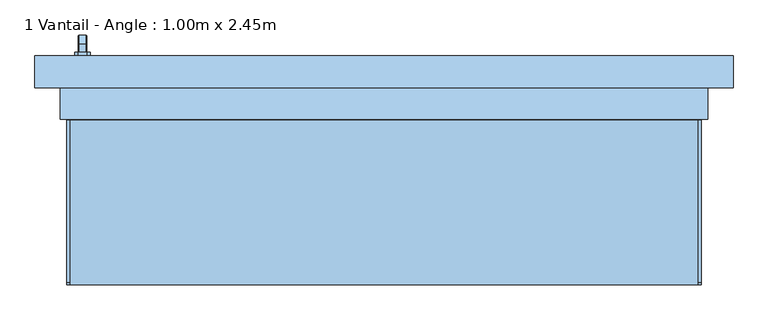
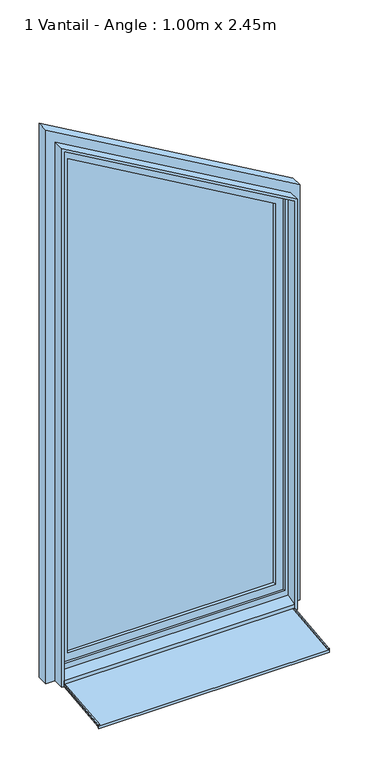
"""IFC4 building model written with IfcOpenShell, lengths in millimetres: window geometry, 1 Vantail - Angle : 1.00m x 2.45m."""

from ifc_helpers import new_model, si_unit, point, frame, frame_2d, origin, place, context, project, spatial, polyline, circle_curve, trimmed, segment, composite_curve, outline, extrude, faceted_brep, source, transform, mapped, element, save


def window_1_vantail_angle_1_00m_x_2_45m_d07fa77f(model_context):
    return source(origin(), model_context, "Body", "SolidModel", [
        faceted_brep([(-469.3539903, 181.0, 1122.0339292), (-480.6460097, 181.0, 1122.0339292), (-482.0339292, 181.0, 1120.6460097), (-482.0339292, 181.0, 1109.3323012), (-480.6676988, 181.0, 1107.9660708), (-469.3323012, 181.0, 1107.9660708), (-467.9660708, 181.0, 1109.3323012), (-467.9660708, 181.0, 1120.6460097), (-467.9660708, 193.3386538, 1120.6460097), (-469.3539903, 193.9135489, 1122.0339292), (-467.9660708, 188.6523623, 1109.3323012), (-467.9660708, 195.3323012, 1102.6523623), (-467.9660708, 195.3323012, 1020.0), (-467.9660708, 206.6460097, 1020.0), (-467.9660708, 206.6460097, 1107.3386538), (-469.3323012, 188.0864511, 1107.9660708), (-480.6676988, 188.0864511, 1107.9660708), (-482.0339292, 188.6523623, 1109.3323012), (-482.0339292, 193.3386538, 1120.6460097), (-482.0339292, 206.6460097, 1107.3386538), (-482.0339292, 206.6460097, 1020.0), (-482.0339292, 195.3323012, 1020.0), (-482.0339292, 195.3323012, 1102.6523623), (-480.6460097, 193.9135489, 1122.0339292), (-469.3539903, 208.0339292, 1107.9135489), (-469.3323012, 193.9660708, 1102.0864511), (-480.6676988, 193.9660708, 1102.0864511), (-480.6460097, 208.0339292, 1107.9135489), (-469.3539903, 208.0339292, 1020.0), (-469.3323012, 193.9660708, 1020.0), (-480.6676988, 193.9660708, 1020.0), (-480.6460097, 208.0339292, 1020.0)], [[[0, 1, 2, 3, 4, 5, 6, 7]], [[7, 8, 9, 0]], [[6, 10, 11, 12, 13, 14, 8, 7]], [[5, 15, 10, 6]], [[4, 16, 15, 5]], [[3, 17, 16, 4]], [[2, 18, 19, 20, 21, 22, 17, 3]], [[1, 23, 18, 2]], [[0, 9, 23, 1]], [[8, 14, 24, 9]], [[15, 25, 11, 10]], [[16, 26, 25, 15]], [[17, 22, 26, 16]], [[23, 27, 19, 18]], [[9, 24, 27, 23]], [[28, 13, 12, 29, 30, 21, 20, 31]], [[14, 13, 28, 24]], [[25, 29, 12, 11]], [[26, 30, 29, 25]], [[22, 21, 30, 26]], [[27, 31, 20, 19]], [[24, 28, 31, 27]]]),
        extrude(outline(polyline([(1140.0, -468.0), (1140.0, -482.0), (1135.0, -487.0), (1065.0, -487.0), (1060.0, -482.0), (1060.0, -468.0), (1065.0, -463.0), (1135.0, -463.0), (1140.0, -468.0)])), frame((0.0, 175.0, 0.0), z_axis=(0.0, 1.0, 0.0), x_axis=(0.0, 0.0, 1.0)), (0.0, 0.0, 1.0), 6.0),
        extrude(outline(polyline([(-185.0288776, 10.8229907), (90.0, 39.7296906), (90.0, 50.0), (95.0, 50.0), (95.0, 35.0), (-180.0288776, 6.0933001), (-180.0288776, 0.2703094), (-185.0288776, -0.2552118), (-185.0288776, 10.8229907)])), frame((-500.0, 0.0, 0.0), z_axis=(1.0, 0.0, 0.0), x_axis=(0.0, 1.0, 0.0)), (0.0, 0.0, 1.0), 1000.0),
        extrude(outline(composite_curve([segment(polyline([(-185.0288776, 10.8229907), (-185.0288776, 12.2489159)]), True, "CONTINUOUS"), segment(trimmed(circle_curve(frame_2d((-181.0288776, 12.2489159)), 4.0), [point((-185.0288776, 12.2489159))], [point((-181.4469915, 16.2270035))], False, "CARTESIAN"), True, "CONTINUOUS"), segment(polyline([(-181.4469915, 16.2270035), (90.0, 44.757232), (90.0, 39.7296906), (-185.0288776, 10.8229907)]), True, "CONTINUOUS")], self_intersect=False)), frame((-500.0, 0.0, 0.0), z_axis=(1.0, 0.0, 0.0), x_axis=(0.0, 1.0, 0.0)), (0.0, 0.0, 1.0), 5.0),
        extrude(outline(composite_curve([segment(polyline([(-185.0288776, 10.8229907), (-185.0288776, 12.2489159)]), True, "CONTINUOUS"), segment(trimmed(circle_curve(frame_2d((-181.0288776, 12.2489159)), 4.0), [point((-185.0288776, 12.2489159))], [point((-181.4469915, 16.2270035))], False, "CARTESIAN"), True, "CONTINUOUS"), segment(polyline([(-181.4469915, 16.2270035), (90.0, 44.757232), (90.0, 39.7296906), (-185.0288776, 10.8229907)]), True, "CONTINUOUS")], self_intersect=False)), frame((495.0, 0.0, 0.0), z_axis=(1.0, 0.0, 0.0), x_axis=(0.0, 1.0, 0.0)), (0.0, 0.0, 1.0), 5.0),
        extrude(outline(polyline([(35.0, -500.0), (2485.0, -500.0), (1907.6497308, 500.0), (35.0, 500.0), (35.0, 510.0), (1913.4232335, 510.0), (2502.3205081, -510.0), (35.0, -510.0), (35.0, -500.0)])), frame((0.0, 75.0, 0.0), z_axis=(0.0, 1.0, 0.0), x_axis=(0.0, 0.0, 1.0)), (0.0, 0.0, 1.0), 50.0),
        faceted_brep([(-550.0, 175.0, 35.0), (550.0, 175.0, 35.0), (550.0, 125.0, 35.0), (500.0, 125.0, 35.0), (500.0, 95.0, 35.0), (-500.0, 95.0, 35.0), (-500.0, 125.0, 35.0), (-550.0, 125.0, 35.0), (-550.0, 125.0, 2571.6025404), (-550.0, 175.0, 2571.6025404), (-500.0, 125.0, 74.3761425), (500.0, 125.0, 74.3761425), (550.0, 125.0, 1936.5172443), (-485.0, 125.0, 2459.0192379), (485.0, 125.0, 1898.9894768), (485.0, 125.0, 100.0), (-485.0, 125.0, 100.0), (-500.0, 95.0, 50.0), (-500.0, 85.0, 50.0), (-500.0, 85.0, 45.0), (-500.0, 75.0, 45.0), (-500.0, 75.0, 60.9786829), (500.0, 95.0, 50.0), (500.0, 75.0, 60.9786829), (500.0, 75.0, 45.0), (500.0, 85.0, 45.0), (500.0, 85.0, 50.0), (550.0, 175.0, 1936.5172443), (500.0, 175.0, 1907.6497308), (-500.0, 175.0, 2485.0), (-500.0, 175.0, 85.0), (500.0, 175.0, 85.0), (-485.0, 135.0, 100.0), (-485.0, 135.0, 2459.0192379), (485.0, 135.0, 100.0), (485.0, 135.0, 1898.9894768), (500.0, 135.0, 1907.6497308), (500.0, 135.0, 85.0), (-500.0, 135.0, 85.0), (-500.0, 135.0, 2485.0)], [[[0, 1, 2, 3, 4, 5, 6, 7]], [[7, 8, 9, 0]], [[7, 6, 10, 11, 3, 2, 12, 8], [13, 14, 15, 16]], [[10, 6, 5, 17, 18, 19, 20, 21]], [[5, 4, 22, 17]], [[4, 3, 11, 23, 24, 25, 26, 22]], [[2, 1, 27, 12]], [[0, 9, 27, 1], [28, 29, 30, 31]], [[13, 16, 32, 33]], [[32, 16, 15, 34]], [[35, 34, 15, 14]], [[21, 23, 11, 10]], [[36, 37, 38, 39], [33, 32, 34, 35]], [[38, 30, 29, 39]], [[30, 38, 37, 31]], [[28, 31, 37, 36]], [[20, 24, 23, 21]], [[19, 25, 24, 20]], [[18, 26, 25, 19]], [[17, 22, 26, 18]], [[13, 33, 35, 14]], [[12, 27, 9, 8]], [[39, 29, 28, 36]]]),
        extrude(outline(polyline([(2485.0, -500.0), (85.0, -500.0), (85.0, 500.0), (1907.6497308, 500.0), (2485.0, -500.0)]), holes=[polyline([(1878.7822174, 450.0), (135.0, 450.0), (135.0, -450.0), (2398.3974596, -450.0), (1878.7822174, 450.0)])]), frame((0.0, 135.0, 0.0), z_axis=(0.0, 1.0, 0.0), x_axis=(0.0, 0.0, 1.0)), (0.0, 0.0, 1.0), 40.0),
        extrude(outline(polyline([(135.0, -450.0), (135.0, 450.0), (1878.7822174, 450.0), (2398.3974596, -450.0), (135.0, -450.0)])), frame((0.0, 149.0, 0.0), z_axis=(0.0, 1.0, 0.0), x_axis=(0.0, 0.0, 1.0)), (0.0, 0.0, 1.0), 12.0),
    ])


if __name__ == "__main__":
    model = new_model("IFC4")
    model_context = context("Model", 3, world=origin())
    ifc_project = project(units=[si_unit("LENGTHUNIT", "METRE", prefix="MILLI")], contexts=[model_context])
    site = spatial("IfcSite", under=ifc_project)
    building = spatial("IfcBuilding", under=site)
    placement = place(None, origin())
    window_1_vantail_angle_1_00m_x_2_45m_shape = window_1_vantail_angle_1_00m_x_2_45m_d07fa77f(model_context)
    element("IfcWindow", 1, ObjectType="1 Vantail - Angle : 1.00m x 2.45m", at=placement, inside=building, context=model_context, shape_type="MappedRepresentation", body=[
        mapped(window_1_vantail_angle_1_00m_x_2_45m_shape, transform((0.0, 0.0, 0.0), x_axis=(1.0, 0.0, 0.0), y_axis=(0.0, 1.0, 0.0), z_axis=(0.0, 0.0, 1.0))),
    ])
    save(model, "model.ifc")
